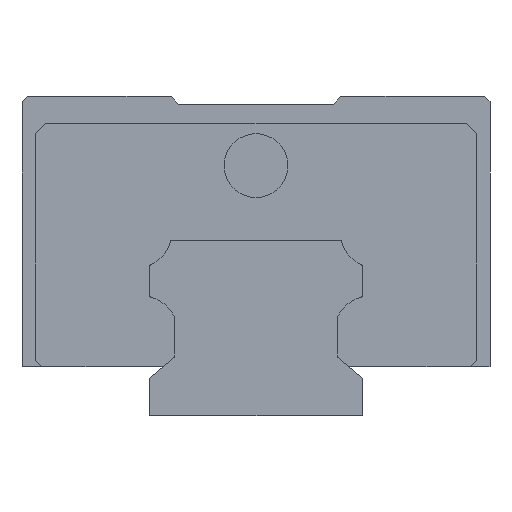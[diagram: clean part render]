
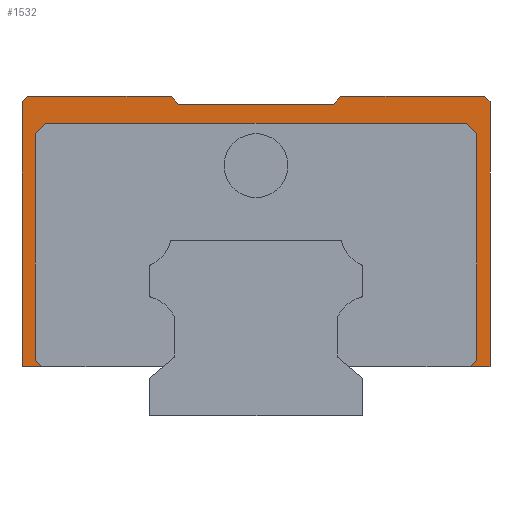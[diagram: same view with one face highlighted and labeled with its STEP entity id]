
A CAD part, left-side view. The second image highlights one B-rep face of the part: STEP entity #1532.
In plain terms, the highlighted planar face has unit normal (-1, 0, 0).
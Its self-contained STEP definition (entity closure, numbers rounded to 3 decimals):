
#51 = LINE ( 'NONE', #4292, #1476 ) ;
#63 = DIRECTION ( 'NONE',  ( 0., 0., 1. ) ) ;
#89 = CARTESIAN_POINT ( 'NONE',  ( -27., 20.15, 4.6 ) ) ;
#249 = EDGE_CURVE ( 'NONE', #462, #1058, #1027, .T. ) ;
#270 = EDGE_CURVE ( 'NONE', #839, #2966, #1918, .T. ) ;
#289 = LINE ( 'NONE', #3578, #5827 ) ;
#362 = LINE ( 'NONE', #3729, #2451 ) ;
#363 = VERTEX_POINT ( 'NONE', #5917 ) ;
#462 = VERTEX_POINT ( 'NONE', #2170 ) ;
#547 = VERTEX_POINT ( 'NONE', #5049 ) ;
#559 = CARTESIAN_POINT ( 'NONE',  ( -27., 22., 4.6 ) ) ;
#570 = CARTESIAN_POINT ( 'NONE',  ( -27., 20.75, 5.2 ) ) ;
#608 = EDGE_CURVE ( 'NONE', #2177, #5739, #51, .T. ) ;
#617 = VERTEX_POINT ( 'NONE', #5753 ) ;
#652 = LINE ( 'NONE', #2137, #2844 ) ;
#714 = ORIENTED_EDGE ( 'NONE', *, *, #3502, .F. ) ;
#804 = VERTEX_POINT ( 'NONE', #1120 ) ;
#833 = LINE ( 'NONE', #2272, #3262 ) ;
#839 = VERTEX_POINT ( 'NONE', #4391 ) ;
#913 = LINE ( 'NONE', #2080, #2360 ) ;
#939 = ORIENTED_EDGE ( 'NONE', *, *, #4375, .T. ) ;
#972 = PLANE ( 'NONE',  #1394 ) ;
#1009 = DIRECTION ( 'NONE',  ( 0., -0.707, 0.707 ) ) ;
#1013 = EDGE_CURVE ( 'NONE', #617, #804, #4112, .T. ) ;
#1014 = ORIENTED_EDGE ( 'NONE', *, *, #1456, .F. ) ;
#1024 = EDGE_CURVE ( 'NONE', #5703, #3467, #362, .T. ) ;
#1027 = LINE ( 'NONE', #3435, #1681 ) ;
#1058 = VERTEX_POINT ( 'NONE', #1959 ) ;
#1120 = CARTESIAN_POINT ( 'NONE',  ( -27., -20.15, 4.6 ) ) ;
#1150 = VERTEX_POINT ( 'NONE', #570 ) ;
#1209 = VECTOR ( 'NONE', #1009, 1000. ) ;
#1220 = LINE ( 'NONE', #3103, #2689 ) ;
#1394 = AXIS2_PLACEMENT_3D ( 'NONE', #1465, #5273, #3353 ) ;
#1456 = EDGE_CURVE ( 'NONE', #804, #2591, #2394, .T. ) ;
#1465 = CARTESIAN_POINT ( 'NONE',  ( -27., -22., 30. ) ) ;
#1476 = VECTOR ( 'NONE', #2339, 1000. ) ;
#1502 = CARTESIAN_POINT ( 'NONE',  ( -27., 21.5, 30. ) ) ;
#1522 = DIRECTION ( 'NONE',  ( 0., 0.707, 0.707 ) ) ;
#1532 = ADVANCED_FACE ( 'NONE', ( #3723 ), #972, .F. ) ;
#1669 = ORIENTED_EDGE ( 'NONE', *, *, #5652, .F. ) ;
#1681 = VECTOR ( 'NONE', #5323, 1000. ) ;
#1686 = ORIENTED_EDGE ( 'NONE', *, *, #4795, .F. ) ;
#1689 = CARTESIAN_POINT ( 'NONE',  ( -27., -22., 29.5 ) ) ;
#1796 = LINE ( 'NONE', #4202, #2375 ) ;
#1841 = DIRECTION ( 'NONE',  ( 0., 1., 0. ) ) ;
#1849 = VECTOR ( 'NONE', #2039, 1000. ) ;
#1903 = CARTESIAN_POINT ( 'NONE',  ( -27., -33.775, 18.225 ) ) ;
#1918 = LINE ( 'NONE', #5759, #2960 ) ;
#1957 = DIRECTION ( 'NONE',  ( 0., 1., 0. ) ) ;
#1959 = CARTESIAN_POINT ( 'NONE',  ( -27., -7.333, 29.25 ) ) ;
#1998 = LINE ( 'NONE', #3497, #3766 ) ;
#2005 = EDGE_CURVE ( 'NONE', #3336, #3124, #2534, .T. ) ;
#2039 = DIRECTION ( 'NONE',  ( 0., 0., 1. ) ) ;
#2080 = CARTESIAN_POINT ( 'NONE',  ( -27., -19.625, 27.625 ) ) ;
#2089 = VECTOR ( 'NONE', #3011, 1000. ) ;
#2092 = EDGE_CURVE ( 'NONE', #1058, #839, #1220, .T. ) ;
#2137 = CARTESIAN_POINT ( 'NONE',  ( -27., 20.75, 30. ) ) ;
#2158 = ORIENTED_EDGE ( 'NONE', *, *, #4612, .F. ) ;
#2164 = DIRECTION ( 'NONE',  ( 0., 1., 0. ) ) ;
#2170 = CARTESIAN_POINT ( 'NONE',  ( -27., -7.963, 30. ) ) ;
#2177 = VERTEX_POINT ( 'NONE', #5684 ) ;
#2213 = CARTESIAN_POINT ( 'NONE',  ( -27., 22., 29.5 ) ) ;
#2229 = CARTESIAN_POINT ( 'NONE',  ( -27., -22., 28. ) ) ;
#2258 = LINE ( 'NONE', #2229, #4317 ) ;
#2272 = CARTESIAN_POINT ( 'NONE',  ( -27., 22., 30. ) ) ;
#2316 = DIRECTION ( 'NONE',  ( 0., 0., -1. ) ) ;
#2339 = DIRECTION ( 'NONE',  ( 0., 0.707, -0.707 ) ) ;
#2360 = VECTOR ( 'NONE', #1522, 1000. ) ;
#2375 = VECTOR ( 'NONE', #6087, 1000. ) ;
#2394 = LINE ( 'NONE', #1903, #1209 ) ;
#2451 = VECTOR ( 'NONE', #5969, 1000. ) ;
#2465 = EDGE_CURVE ( 'NONE', #3336, #2966, #833, .T. ) ;
#2476 = VERTEX_POINT ( 'NONE', #5070 ) ;
#2534 = LINE ( 'NONE', #4420, #2089 ) ;
#2572 = DIRECTION ( 'NONE',  ( 0., 0., -1. ) ) ;
#2591 = VERTEX_POINT ( 'NONE', #4704 ) ;
#2689 = VECTOR ( 'NONE', #2164, 1000. ) ;
#2703 = DIRECTION ( 'NONE',  ( 0., -0.707, -0.707 ) ) ;
#2844 = VECTOR ( 'NONE', #2572, 1000. ) ;
#2941 = DIRECTION ( 'NONE',  ( 0., 0.643, 0.766 ) ) ;
#2960 = VECTOR ( 'NONE', #2941, 1000. ) ;
#2966 = VERTEX_POINT ( 'NONE', #5375 ) ;
#3011 = DIRECTION ( 'NONE',  ( 0., 0.707, -0.707 ) ) ;
#3103 = CARTESIAN_POINT ( 'NONE',  ( -27., -7.333, 29.25 ) ) ;
#3124 = VERTEX_POINT ( 'NONE', #2213 ) ;
#3170 = CARTESIAN_POINT ( 'NONE',  ( -27., 22., 4.6 ) ) ;
#3212 = CARTESIAN_POINT ( 'NONE',  ( -27., -22., 4.6 ) ) ;
#3262 = VECTOR ( 'NONE', #5117, 1000. ) ;
#3336 = VERTEX_POINT ( 'NONE', #1502 ) ;
#3353 = DIRECTION ( 'NONE',  ( 0., 1., 0. ) ) ;
#3435 = CARTESIAN_POINT ( 'NONE',  ( -27., -7.963, 30. ) ) ;
#3439 = ORIENTED_EDGE ( 'NONE', *, *, #2092, .T. ) ;
#3467 = VERTEX_POINT ( 'NONE', #3170 ) ;
#3497 = CARTESIAN_POINT ( 'NONE',  ( -27., -22., 27.5 ) ) ;
#3502 = EDGE_CURVE ( 'NONE', #1150, #5703, #289, .T. ) ;
#3525 = ORIENTED_EDGE ( 'NONE', *, *, #608, .F. ) ;
#3541 = VERTEX_POINT ( 'NONE', #1689 ) ;
#3578 = CARTESIAN_POINT ( 'NONE',  ( -27., 11.775, -3.775 ) ) ;
#3617 = ORIENTED_EDGE ( 'NONE', *, *, #3726, .F. ) ;
#3723 = FACE_OUTER_BOUND ( 'NONE', #4950, .T. ) ;
#3726 = EDGE_CURVE ( 'NONE', #547, #363, #913, .T. ) ;
#3729 = CARTESIAN_POINT ( 'NONE',  ( -27., 9., 4.6 ) ) ;
#3736 = VECTOR ( 'NONE', #63, 1000. ) ;
#3766 = VECTOR ( 'NONE', #1957, 1000. ) ;
#3826 = CARTESIAN_POINT ( 'NONE',  ( -27., 20.75, 26.5 ) ) ;
#3867 = LINE ( 'NONE', #5320, #1849 ) ;
#3868 = ORIENTED_EDGE ( 'NONE', *, *, #5844, .F. ) ;
#3919 = ORIENTED_EDGE ( 'NONE', *, *, #2005, .T. ) ;
#4112 = LINE ( 'NONE', #3212, #4328 ) ;
#4118 = ORIENTED_EDGE ( 'NONE', *, *, #1013, .F. ) ;
#4196 = ORIENTED_EDGE ( 'NONE', *, *, #1024, .F. ) ;
#4202 = CARTESIAN_POINT ( 'NONE',  ( -27., 22., 30. ) ) ;
#4292 = CARTESIAN_POINT ( 'NONE',  ( -27., -2.375, 49.625 ) ) ;
#4302 = LINE ( 'NONE', #559, #3736 ) ;
#4317 = VECTOR ( 'NONE', #2316, 1000. ) ;
#4328 = VECTOR ( 'NONE', #1841, 1000. ) ;
#4375 = EDGE_CURVE ( 'NONE', #3541, #2476, #4898, .T. ) ;
#4391 = CARTESIAN_POINT ( 'NONE',  ( -27., 7.333, 29.25 ) ) ;
#4400 = ORIENTED_EDGE ( 'NONE', *, *, #2465, .F. ) ;
#4420 = CARTESIAN_POINT ( 'NONE',  ( -27., 21.5, 30. ) ) ;
#4612 = EDGE_CURVE ( 'NONE', #462, #2476, #1796, .T. ) ;
#4669 = ORIENTED_EDGE ( 'NONE', *, *, #5501, .F. ) ;
#4704 = CARTESIAN_POINT ( 'NONE',  ( -27., -20.75, 5.2 ) ) ;
#4744 = VECTOR ( 'NONE', #5391, 1000. ) ;
#4795 = EDGE_CURVE ( 'NONE', #363, #2177, #1998, .T. ) ;
#4796 = ORIENTED_EDGE ( 'NONE', *, *, #270, .T. ) ;
#4898 = LINE ( 'NONE', #5478, #4744 ) ;
#4950 = EDGE_LOOP ( 'NONE', ( #714, #3868, #3525, #1686, #3617, #1669, #1014, #4118, #4669, #939, #2158, #5076, #3439, #4796, #4400, #3919, #5146, #4196 ) ) ;
#5049 = CARTESIAN_POINT ( 'NONE',  ( -27., -20.75, 26.5 ) ) ;
#5070 = CARTESIAN_POINT ( 'NONE',  ( -27., -21.5, 30. ) ) ;
#5076 = ORIENTED_EDGE ( 'NONE', *, *, #249, .T. ) ;
#5117 = DIRECTION ( 'NONE',  ( 0., -1., 0. ) ) ;
#5146 = ORIENTED_EDGE ( 'NONE', *, *, #6059, .F. ) ;
#5273 = DIRECTION ( 'NONE',  ( 1., 0., 0. ) ) ;
#5320 = CARTESIAN_POINT ( 'NONE',  ( -27., -20.75, 30. ) ) ;
#5323 = DIRECTION ( 'NONE',  ( 0., 0.643, -0.766 ) ) ;
#5375 = CARTESIAN_POINT ( 'NONE',  ( -27., 7.963, 30. ) ) ;
#5391 = DIRECTION ( 'NONE',  ( 0., 0.707, 0.707 ) ) ;
#5478 = CARTESIAN_POINT ( 'NONE',  ( -27., -22., 29.5 ) ) ;
#5501 = EDGE_CURVE ( 'NONE', #3541, #617, #2258, .T. ) ;
#5652 = EDGE_CURVE ( 'NONE', #2591, #547, #3867, .T. ) ;
#5684 = CARTESIAN_POINT ( 'NONE',  ( -27., 19.75, 27.5 ) ) ;
#5703 = VERTEX_POINT ( 'NONE', #89 ) ;
#5739 = VERTEX_POINT ( 'NONE', #3826 ) ;
#5753 = CARTESIAN_POINT ( 'NONE',  ( -27., -22., 4.6 ) ) ;
#5759 = CARTESIAN_POINT ( 'NONE',  ( -27., 7.333, 29.25 ) ) ;
#5827 = VECTOR ( 'NONE', #2703, 1000. ) ;
#5844 = EDGE_CURVE ( 'NONE', #5739, #1150, #652, .T. ) ;
#5917 = CARTESIAN_POINT ( 'NONE',  ( -27., -19.75, 27.5 ) ) ;
#5969 = DIRECTION ( 'NONE',  ( 0., 1., 0. ) ) ;
#6059 = EDGE_CURVE ( 'NONE', #3467, #3124, #4302, .T. ) ;
#6087 = DIRECTION ( 'NONE',  ( 0., -1., 0. ) ) ;
